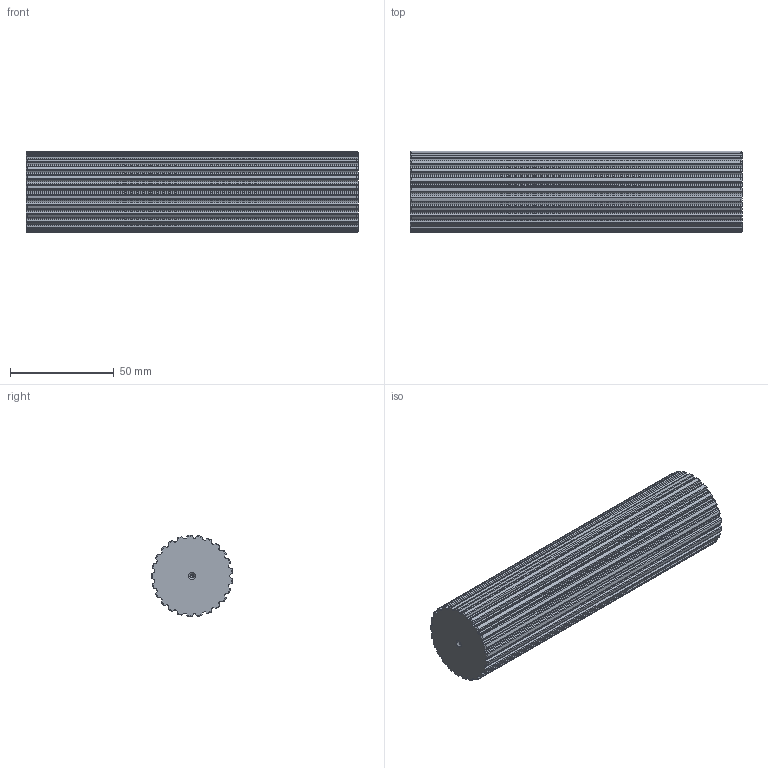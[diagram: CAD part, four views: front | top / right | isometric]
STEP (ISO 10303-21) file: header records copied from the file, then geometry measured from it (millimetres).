
FILE_DESCRIPTION(('STEP AP203'),'1');
FILE_NAME('bart_25.stp','2022-04-12T14:01:47',('TraceParts'),('TraceParts S.A.'),'Spatial InterOp 3D',' ',' ');
FILE_SCHEMA(('CONFIG_CONTROL_DESIGN'));
Length unit declared in the file: millimetre
Products named in the file (1): 1
Bounding box: 160 x 39.22 x 39.28 mm (x, y, z)
Volume: 182965 mm3; surface area: 27111.6 mm2
Topology: 1 solids, 1 shells, 266 faces, 784 edges, 518 vertices
Faces by surface type: cylinder 154, cone 60, plane 52
Entity records: 9546 total; most frequent: CARTESIAN_POINT 2665, ORIENTED_EDGE 1560, DIRECTION 1380, EDGE_CURVE 780, AXIS2_PLACEMENT_3D 533, VERTEX_POINT 518, LINE 314, VECTOR 314
